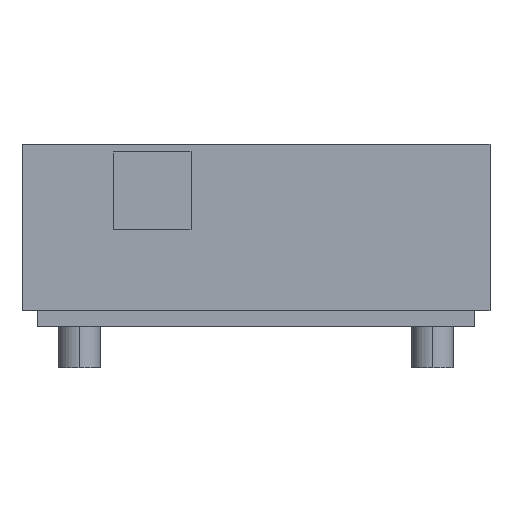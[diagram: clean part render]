
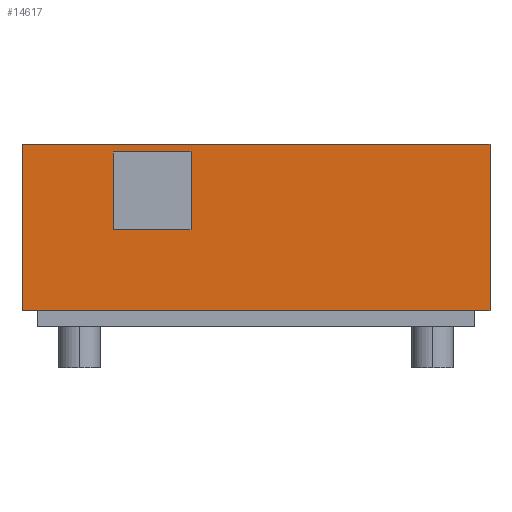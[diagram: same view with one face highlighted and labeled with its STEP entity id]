
A CAD part, front view. The second image highlights one B-rep face of the part: STEP entity #14617.
In plain terms, the highlighted planar face has unit normal (0, -1, 0).
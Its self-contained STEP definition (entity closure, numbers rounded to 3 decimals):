
#219 = VERTEX_POINT ( 'NONE', #1420 ) ;
#368 = VERTEX_POINT ( 'NONE', #10004 ) ;
#371 = CARTESIAN_POINT ( 'NONE',  ( 4.5, -1.275, -0.175 ) ) ;
#524 = LINE ( 'NONE', #8497, #3912 ) ;
#1052 = CARTESIAN_POINT ( 'NONE',  ( -1.25, -1.275, 1.675 ) ) ;
#1149 = CARTESIAN_POINT ( 'NONE',  ( -3.475, -1.275, 3.015 ) ) ;
#1420 = CARTESIAN_POINT ( 'NONE',  ( -1.25, -1.275, 2.875 ) ) ;
#1470 = EDGE_CURVE ( 'NONE', #19340, #368, #7198, .T. ) ;
#1526 = CARTESIAN_POINT ( 'NONE',  ( -4.5, -1.275, 3.025 ) ) ;
#1598 = ORIENTED_EDGE ( 'NONE', *, *, #10186, .T. ) ;
#1694 = DIRECTION ( 'NONE',  ( 0., 0., 1. ) ) ;
#1808 = VECTOR ( 'NONE', #8333, 1000. ) ;
#1814 = LINE ( 'NONE', #18471, #23934 ) ;
#1857 = ORIENTED_EDGE ( 'NONE', *, *, #1470, .F. ) ;
#2693 = DIRECTION ( 'NONE',  ( -1., 0., 0. ) ) ;
#3294 = PLANE ( 'NONE',  #14253 ) ;
#3314 = ORIENTED_EDGE ( 'NONE', *, *, #23667, .T. ) ;
#3593 = EDGE_CURVE ( 'NONE', #17133, #8943, #22308, .T. ) ;
#3701 = EDGE_CURVE ( 'NONE', #8943, #16276, #10344, .T. ) ;
#3912 = VECTOR ( 'NONE', #17526, 1000. ) ;
#4052 = EDGE_CURVE ( 'NONE', #6503, #23582, #15757, .T. ) ;
#4414 = LINE ( 'NONE', #12123, #22783 ) ;
#5277 = ORIENTED_EDGE ( 'NONE', *, *, #21980, .F. ) ;
#6000 = ORIENTED_EDGE ( 'NONE', *, *, #9988, .F. ) ;
#6083 = CARTESIAN_POINT ( 'NONE',  ( 4.5, -1.275, 3.025 ) ) ;
#6107 = LINE ( 'NONE', #17580, #14779 ) ;
#6503 = VERTEX_POINT ( 'NONE', #6520 ) ;
#6520 = CARTESIAN_POINT ( 'NONE',  ( 3.475, -1.275, 3.025 ) ) ;
#6688 = DIRECTION ( 'NONE',  ( 0., 0., 1. ) ) ;
#7198 = LINE ( 'NONE', #9034, #13079 ) ;
#7378 = ORIENTED_EDGE ( 'NONE', *, *, #11362, .F. ) ;
#7597 = EDGE_CURVE ( 'NONE', #19340, #22001, #8539, .T. ) ;
#7779 = CARTESIAN_POINT ( 'NONE',  ( -2.75, -1.275, 1.675 ) ) ;
#7952 = CARTESIAN_POINT ( 'NONE',  ( -2.75, -1.275, 2.875 ) ) ;
#8333 = DIRECTION ( 'NONE',  ( 1., 0., 0. ) ) ;
#8446 = CARTESIAN_POINT ( 'NONE',  ( 4.5, -1.275, 3.025 ) ) ;
#8497 = CARTESIAN_POINT ( 'NONE',  ( -2.75, -1.275, 2.875 ) ) ;
#8539 = LINE ( 'NONE', #1149, #17273 ) ;
#8598 = VECTOR ( 'NONE', #11712, 1000. ) ;
#8943 = VERTEX_POINT ( 'NONE', #12013 ) ;
#9034 = CARTESIAN_POINT ( 'NONE',  ( 3.475, -1.275, 3.015 ) ) ;
#9988 = EDGE_CURVE ( 'NONE', #11978, #22433, #6107, .T. ) ;
#10004 = CARTESIAN_POINT ( 'NONE',  ( 3.475, -1.275, 3.015 ) ) ;
#10186 = EDGE_CURVE ( 'NONE', #219, #16276, #19738, .T. ) ;
#10234 = CARTESIAN_POINT ( 'NONE',  ( -2.75, -1.275, 1.675 ) ) ;
#10344 = LINE ( 'NONE', #10234, #13525 ) ;
#10897 = ORIENTED_EDGE ( 'NONE', *, *, #4052, .F. ) ;
#11069 = CARTESIAN_POINT ( 'NONE',  ( -3.475, -1.275, 3.025 ) ) ;
#11147 = ORIENTED_EDGE ( 'NONE', *, *, #3593, .F. ) ;
#11362 = EDGE_CURVE ( 'NONE', #22433, #22001, #17326, .T. ) ;
#11712 = DIRECTION ( 'NONE',  ( 1., 0., 0. ) ) ;
#11820 = DIRECTION ( 'NONE',  ( 1., 0., 0. ) ) ;
#11978 = VERTEX_POINT ( 'NONE', #23846 ) ;
#12013 = CARTESIAN_POINT ( 'NONE',  ( -2.75, -1.275, 1.675 ) ) ;
#12123 = CARTESIAN_POINT ( 'NONE',  ( 0., -1.275, -0.175 ) ) ;
#13079 = VECTOR ( 'NONE', #14393, 1000. ) ;
#13128 = VECTOR ( 'NONE', #15339, 1000. ) ;
#13525 = VECTOR ( 'NONE', #11820, 1000. ) ;
#13885 = ORIENTED_EDGE ( 'NONE', *, *, #16742, .F. ) ;
#13928 = CARTESIAN_POINT ( 'NONE',  ( -3.475, -1.275, 3.015 ) ) ;
#14253 = AXIS2_PLACEMENT_3D ( 'NONE', #16380, #14789, #20140 ) ;
#14286 = ORIENTED_EDGE ( 'NONE', *, *, #16553, .F. ) ;
#14325 = EDGE_LOOP ( 'NONE', ( #14720, #11147, #3314, #1598 ) ) ;
#14393 = DIRECTION ( 'NONE',  ( 1., 0., 0. ) ) ;
#14617 = ADVANCED_FACE ( 'NONE', ( #23668, #23916 ), #3294, .F. ) ;
#14720 = ORIENTED_EDGE ( 'NONE', *, *, #3701, .F. ) ;
#14779 = VECTOR ( 'NONE', #17229, 1000. ) ;
#14789 = DIRECTION ( 'NONE',  ( 0., 1., 0. ) ) ;
#15056 = LINE ( 'NONE', #22618, #19132 ) ;
#15312 = EDGE_LOOP ( 'NONE', ( #1857, #17398, #7378, #6000, #14286, #5277, #10897, #13885 ) ) ;
#15339 = DIRECTION ( 'NONE',  ( 0., 0., -1. ) ) ;
#15757 = LINE ( 'NONE', #8446, #1808 ) ;
#16276 = VERTEX_POINT ( 'NONE', #19215 ) ;
#16380 = CARTESIAN_POINT ( 'NONE',  ( 0., -1.275, 1.275 ) ) ;
#16553 = EDGE_CURVE ( 'NONE', #17973, #11978, #4414, .T. ) ;
#16654 = DIRECTION ( 'NONE',  ( 0., 0., -1. ) ) ;
#16742 = EDGE_CURVE ( 'NONE', #368, #6503, #1814, .T. ) ;
#16952 = CARTESIAN_POINT ( 'NONE',  ( 4.5, -1.275, 3.025 ) ) ;
#17133 = VERTEX_POINT ( 'NONE', #7952 ) ;
#17229 = DIRECTION ( 'NONE',  ( 0., 0., 1. ) ) ;
#17273 = VECTOR ( 'NONE', #6688, 1000. ) ;
#17326 = LINE ( 'NONE', #6083, #8598 ) ;
#17398 = ORIENTED_EDGE ( 'NONE', *, *, #7597, .T. ) ;
#17526 = DIRECTION ( 'NONE',  ( 1., 0., 0. ) ) ;
#17580 = CARTESIAN_POINT ( 'NONE',  ( -4.5, -1.275, 3.025 ) ) ;
#17973 = VERTEX_POINT ( 'NONE', #371 ) ;
#18471 = CARTESIAN_POINT ( 'NONE',  ( 3.475, -1.275, 3.015 ) ) ;
#19132 = VECTOR ( 'NONE', #16654, 1000. ) ;
#19215 = CARTESIAN_POINT ( 'NONE',  ( -1.25, -1.275, 1.675 ) ) ;
#19340 = VERTEX_POINT ( 'NONE', #13928 ) ;
#19623 = DIRECTION ( 'NONE',  ( 0., 0., -1. ) ) ;
#19738 = LINE ( 'NONE', #1052, #24106 ) ;
#20140 = DIRECTION ( 'NONE',  ( -1., 0., 0. ) ) ;
#21980 = EDGE_CURVE ( 'NONE', #23582, #17973, #15056, .T. ) ;
#22001 = VERTEX_POINT ( 'NONE', #11069 ) ;
#22308 = LINE ( 'NONE', #7779, #13128 ) ;
#22433 = VERTEX_POINT ( 'NONE', #1526 ) ;
#22618 = CARTESIAN_POINT ( 'NONE',  ( 4.5, -1.275, 3.025 ) ) ;
#22783 = VECTOR ( 'NONE', #2693, 1000. ) ;
#23582 = VERTEX_POINT ( 'NONE', #16952 ) ;
#23667 = EDGE_CURVE ( 'NONE', #17133, #219, #524, .T. ) ;
#23668 = FACE_BOUND ( 'NONE', #14325, .T. ) ;
#23846 = CARTESIAN_POINT ( 'NONE',  ( -4.5, -1.275, -0.175 ) ) ;
#23916 = FACE_OUTER_BOUND ( 'NONE', #15312, .T. ) ;
#23934 = VECTOR ( 'NONE', #1694, 1000. ) ;
#24106 = VECTOR ( 'NONE', #19623, 1000. ) ;
